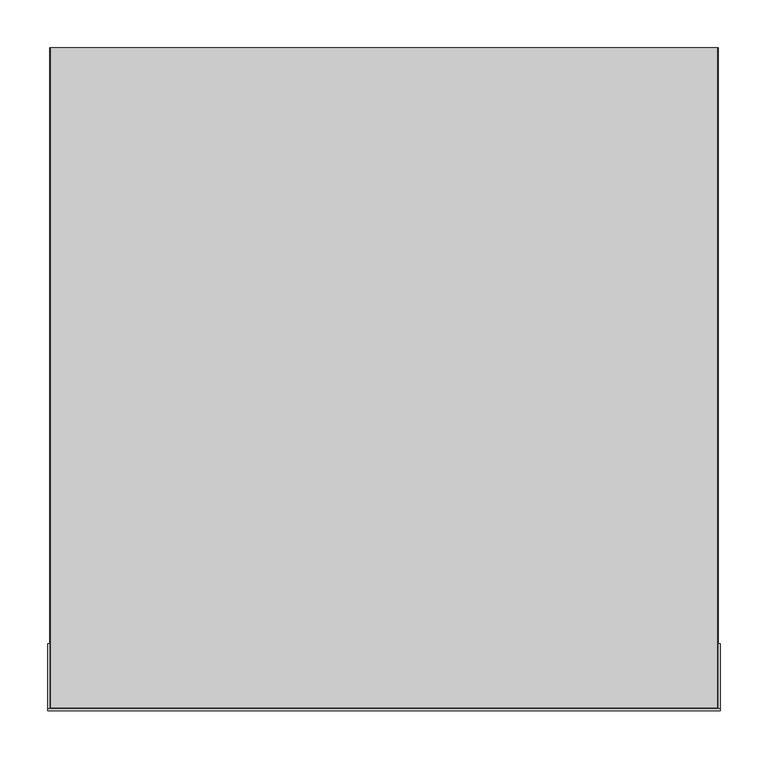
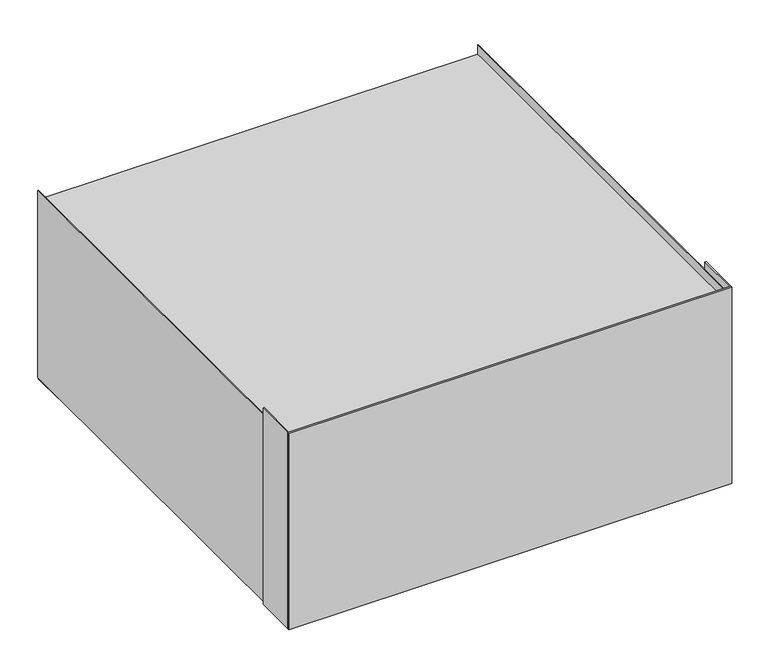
"""IFC4 building model written with IfcOpenShell, lengths in millimetres: proxy geometry, 11792160_EU_APCL054_SST : 59590054_EU_11792160_APCL054_SST."""

from ifc_helpers import new_model, si_unit, point, frame, frame_2d, origin, origin_with_axes, place, context, project, spatial, polyline, circle_curve, trimmed, segment, composite_curve, outline, extrude, faceted_brep, source, transform, mapped, element, save


def specialty_equipment_45dbf545(model_context):
    return source(origin(), model_context, "Body", "SolidModel", [
        extrude(outline(polyline([(-345.65, -54.9545854), (-345.65, -2.0), (-293.150057, -2.0), (-293.150057, -54.9545854), (-345.65, -54.9545854)]), holes=[composite_curve([segment(trimmed(circle_curve(frame_2d((-316.8980495, -29.501979)), 7.0), [point((-323.8980495, -29.501979))], [point((-309.8980495, -29.501979))], True, "CARTESIAN"), True, "CONTINUOUS"), segment(trimmed(circle_curve(frame_2d((-316.8980495, -29.501979)), 7.0), [point((-309.8980495, -29.501979))], [point((-323.8980495, -29.501979))], True, "CARTESIAN"), True, "CONTINUOUS")], self_intersect=False)]), origin_with_axes(), (0.0, 0.0, 1.0), 3.0000568),
        extrude(outline(polyline([(345.65, -633.2454146), (345.65, -686.2), (291.65, -686.2), (291.65, -633.2454146), (345.65, -633.2454146)]), holes=[composite_curve([segment(trimmed(circle_curve(frame_2d((317.0263561, -659.5584791)), 7.0), [point((324.0263561, -659.5584791))], [point((310.0263561, -659.5584791))], True, "CARTESIAN"), True, "CONTINUOUS"), segment(trimmed(circle_curve(frame_2d((317.0263561, -659.5584791)), 7.0), [point((310.0263561, -659.5584791))], [point((324.0263561, -659.5584791))], True, "CARTESIAN"), True, "CONTINUOUS")], self_intersect=False)]), origin_with_axes(), (0.0, 0.0, 1.0), 3.0000568),
        extrude(outline(polyline([(-345.65, -633.2454146), (-291.65, -633.2454146), (-291.65, -686.2), (-345.65, -686.2), (-345.65, -633.2454146)]), holes=[composite_curve([segment(trimmed(circle_curve(frame_2d((-317.0263561, -659.5584791)), 7.0), [point((-324.0263561, -659.5584791))], [point((-310.0263561, -659.5584791))], True, "CARTESIAN"), True, "CONTINUOUS"), segment(trimmed(circle_curve(frame_2d((-317.0263561, -659.5584791)), 7.0), [point((-310.0263561, -659.5584791))], [point((-324.0263561, -659.5584791))], True, "CARTESIAN"), True, "CONTINUOUS")], self_intersect=False)]), origin_with_axes(), (0.0, 0.0, 1.0), 3.0000568),
        faceted_brep([(-347.9787048, -560.2000122, 255.0000529), (-347.9787048, -688.2, 255.0000529), (-217.5212799, -688.2, 255.0000529), (-217.5212799, -686.2, 255.0000529), (-345.9787048, -686.2, 255.0000529), (-345.9787048, -560.2000122, 255.0000529), (-345.9787048, -686.2, 0.0), (-291.5212646, -686.2, 0.0), (-291.5212646, -688.2, 0.0), (-347.9787048, -688.2, 0.0), (-347.9787048, -634.012736, 0.0), (-345.9787048, -634.012736, 0.0), (-347.9787048, -634.012736, 6.0002128), (-291.5212646, -688.2, 5.360683), (-291.5212646, -686.2, 5.360683), (-345.9787048, -634.012736, 6.0002128)], [[[0, 1, 2, 3, 4, 5]], [[6, 7, 8, 9, 10, 11]], [[1, 0, 12, 10, 9]], [[2, 1, 9, 8, 13]], [[4, 3, 14, 7, 6]], [[5, 4, 6, 11, 15]], [[14, 13, 8, 7]], [[13, 14, 3, 2]], [[15, 12, 0, 5]], [[12, 15, 11, 10]]]),
        faceted_brep([(345.9787048, -560.2000122, 255.0000529), (345.9787048, -686.2, 255.0000529), (217.5212799, -686.2, 255.0000529), (217.5212799, -688.2, 255.0000529), (347.9787048, -688.2, 255.0000529), (347.9787048, -560.2000122, 255.0000529), (347.9787048, -688.2, 0.0), (291.4787048, -688.2, 0.0), (291.4787048, -686.2, 0.0), (345.9787048, -686.2, 0.0), (345.9787048, -634.012736, 0.0), (347.9787048, -634.012736, 0.0), (347.9787048, -634.012736, 6.0002128), (291.4787048, -688.2, 4.5000568), (291.4787048, -686.2, 4.5000568), (345.9787048, -634.012736, 6.0002128)], [[[0, 1, 2, 3, 4, 5]], [[6, 7, 8, 9, 10, 11]], [[5, 4, 6, 11, 12]], [[4, 3, 13, 7, 6]], [[2, 1, 9, 8, 14]], [[1, 0, 15, 10, 9]], [[13, 14, 8, 7]], [[14, 13, 3, 2]], [[12, 15, 0, 5]], [[15, 12, 11, 10]]]),
        extrude(outline(polyline([(-347.9787048, -688.2), (-347.9787048, 0.0), (347.9787048, 0.0), (347.9787048, -688.2), (-347.9787048, -688.2)])), frame((0.0, 0.0, 255.0000529), z_axis=(0.0, 0.0, 1.0), x_axis=(1.0, 0.0, 0.0)), (0.0, 0.0, 1.0), 44.9999986),
        extrude(outline(polyline([(350.65, -689.7), (350.65, -691.7), (-350.65, -691.7), (-350.65, -689.7), (350.65, -689.7)])), origin_with_axes(), (0.0, 0.0, 1.0), 329.0),
        faceted_brep([(347.9787048, -127.9999878, 255.0000529), (347.9787048, 0.0, 255.0000529), (217.5212799, 0.0, 255.0000529), (217.5212799, -2.0, 255.0000529), (345.9787048, -2.0, 255.0000529), (345.9787048, -127.9999878, 255.0000529), (345.9787048, -2.0, 0.0), (291.4787048, -2.0, 0.0), (291.4787048, 0.0, 0.0), (347.9787048, 0.0, 0.0), (347.9787048, -54.9545854, 0.0), (345.9787048, -54.9545854, 0.0), (347.9787048, -127.9999878, 251.1747163), (347.9787048, -54.9545854, 3.7638167), (291.4787048, 0.0, 4.5000568), (291.4787048, -2.0, 4.5000568), (345.9787048, -54.9545854, 3.7638167), (345.9787048, -127.9999878, 251.1747163)], [[[0, 1, 2, 3, 4, 5]], [[6, 7, 8, 9, 10, 11]], [[1, 0, 12, 13, 10, 9]], [[1, 9, 8, 14, 2]], [[6, 4, 3, 15, 7]], [[5, 4, 6, 11, 16, 17]], [[0, 5, 17, 12]], [[15, 14, 8, 7]], [[14, 15, 3, 2]], [[13, 16, 11, 10]], [[16, 13, 12, 17]]]),
        faceted_brep([(-347.9787048, -127.9999878, 255.0000529), (-345.9787048, -127.9999878, 255.0000529), (-345.9787048, -2.0, 255.0000529), (-217.5212799, -2.0, 255.0000529), (-217.5212799, 0.0, 255.0000529), (-347.9787048, 0.0, 255.0000529), (-347.9787048, 0.0, 0.0), (-291.5212646, 0.0, 0.0), (-291.5212646, -2.0, 0.0), (-345.9787048, -2.0, 0.0), (-345.9787048, -54.9545854, 0.0), (-347.9787048, -54.9545854, 0.0), (-347.9787048, -54.9545854, 3.7638167), (-347.9787048, -127.9999878, 251.1747163), (-291.5212646, 0.0, 5.360683), (-291.5212646, -2.0, 5.360683), (-345.9787048, -127.9999878, 251.1747163), (-345.9787048, -54.9545854, 3.7638167)], [[[0, 1, 2, 3, 4, 5]], [[6, 7, 8, 9, 10, 11]], [[0, 5, 6, 11, 12, 13]], [[6, 5, 4, 14, 7]], [[2, 9, 8, 15, 3]], [[2, 1, 16, 17, 10, 9]], [[1, 0, 13, 16]], [[14, 15, 8, 7]], [[15, 14, 4, 3]], [[17, 12, 11, 10]], [[12, 17, 16, 13]]]),
        extrude(outline(polyline([(348.9787048, -689.7), (348.9787048, -621.7872741), (350.65, -621.7872741), (350.65, -689.7), (348.9787048, -689.7)])), origin_with_axes(), (0.0, 0.0, 1.0), 329.0),
        extrude(outline(polyline([(-348.9787048, -621.7872741), (-348.9787048, -689.7), (-350.65, -689.7), (-350.65, -621.7872741), (-348.9787048, -621.7872741)])), origin_with_axes(), (0.0, 0.0, 1.0), 329.0),
        extrude(outline(polyline([(348.9787048, -689.7), (347.9787048, -689.7), (347.9787048, 0.0), (348.9787048, 0.0), (348.9787048, -689.7)])), frame((0.0, 0.0, 3.0000568), z_axis=(0.0, 0.0, 1.0), x_axis=(1.0, 0.0, 0.0)), (0.0, 0.0, 1.0), 312.9999432),
        extrude(outline(polyline([(0.0, -1.0), (0.0, 0.0), (689.7, 0.0), (689.7, -1.0), (0.0, -1.0)])), frame((-348.9787048, -689.7, 3.0000568), z_axis=(-2.2841728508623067e-12, 0.0, 1.0), x_axis=(0.0, 1.0, 0.0)), (0.0, 0.0, 1.0), 312.9999432),
        extrude(outline(polyline([(-320.4297166, -34.501979), (-320.4297166, -24.456348), (-316.5963863, -24.456348), (-314.7189618, -24.7518799), (-313.6104107, -25.6605484), (-313.2094194, -26.9456828), (-313.5466445, -28.1192264), (-314.5656776, -29.0082745), (-313.3283679, -29.9451473), (-312.8954934, -31.5074196), (-313.1910253, -32.8575465), (-313.9231104, -33.8189448), (-315.01572, -34.3290745), (-316.6258168, -34.501979), (-320.4297166, -34.501979)]), holes=[polyline([(-319.1740128, -28.5373856), (-316.8808817, -28.5373856), (-315.5417912, -28.4294735), (-314.7361296, -27.9647159), (-314.4651232, -27.1467916), (-314.7177355, -26.3276411), (-315.4412368, -25.8432631), (-317.0550125, -25.7120519), (-319.1740128, -25.7120519), (-319.1740128, -28.5373856)]), polyline([(-319.1740128, -33.2462751), (-316.5988388, -33.2462751), (-315.6668711, -33.1972242), (-314.8783773, -32.9237652), (-314.1511973, -31.5196823), (-314.3915468, -30.5435687), (-315.1702304, -29.9610889), (-316.7214661, -29.7930895), (-319.1740128, -29.7930895), (-319.1740128, -33.2462751)])]), origin_with_axes(), (0.0, 0.0, 1.0), 1.0),
        extrude(outline(polyline([(313.7245194, -664.5553509), (313.7245194, -654.5097198), (317.5578498, -654.5097198), (319.4352742, -654.8052517), (320.5438253, -655.7139202), (320.9448167, -656.9990547), (320.6075915, -658.1725982), (319.5885584, -659.0616464), (320.8258682, -659.9985192), (321.2587427, -661.5607914), (320.9632108, -662.9109183), (320.2311256, -663.8723166), (319.1385161, -664.3824463), (317.5284192, -664.5553509), (313.7245194, -664.5553509)]), holes=[polyline([(314.9802233, -658.5907574), (317.2733544, -658.5907574), (318.6124448, -658.4828454), (319.4181064, -658.0180878), (319.6891128, -657.2001635), (319.4365005, -656.3810129), (318.7129993, -655.896635), (317.0992236, -655.7654237), (314.9802233, -655.7654237), (314.9802233, -658.5907574)]), polyline([(314.9802233, -663.299647), (317.5553972, -663.299647), (318.487365, -663.250596), (319.2758587, -662.9771371), (320.0030388, -661.5730541), (319.7626892, -660.5969406), (318.9840057, -660.0144608), (317.4327699, -659.8464613), (314.9802233, -659.8464613), (314.9802233, -663.299647)])]), frame((0.0, 0.0, -1.0), z_axis=(0.0, 0.0, 1.0), x_axis=(1.0, 0.0, 0.0)), (0.0, 0.0, 1.0), 1.0),
        extrude(outline(polyline([(313.3663823, -34.501979), (313.3663823, -24.456348), (317.1997127, -24.456348), (319.0771372, -24.7518799), (320.1856883, -25.6605484), (320.5866796, -26.9456828), (320.2494545, -28.1192264), (319.2304213, -29.0082745), (320.4677311, -29.9451473), (320.9006056, -31.5074196), (320.6050737, -32.8575465), (319.8729886, -33.8189448), (318.780379, -34.3290745), (317.1702822, -34.501979), (313.3663823, -34.501979)]), holes=[polyline([(314.6220862, -28.5373856), (316.9152173, -28.5373856), (318.2543078, -28.4294735), (319.0599694, -27.9647159), (319.3309758, -27.1467916), (319.0783635, -26.3276411), (318.3548622, -25.8432631), (316.7410865, -25.7120519), (314.6220862, -25.7120519), (314.6220862, -28.5373856)]), polyline([(314.6220862, -33.2462751), (317.1972602, -33.2462751), (318.1292279, -33.1972242), (318.9177216, -32.9237652), (319.6449017, -31.5196823), (319.4045522, -30.5435687), (318.6258686, -29.9610889), (317.0746329, -29.7930895), (314.6220862, -29.7930895), (314.6220862, -33.2462751)])]), frame((0.0, 0.0, -1.0), z_axis=(0.0, 0.0, 1.0), x_axis=(1.0, 0.0, 0.0)), (0.0, 0.0, 1.0), 1.0),
        extrude(outline(polyline([(-319.9744593, -665.0420165), (-319.9744593, -654.9963855), (-316.1411289, -654.9963855), (-314.2637045, -655.2919174), (-313.1551534, -656.2005859), (-312.754162, -657.4857203), (-313.0913872, -658.6592639), (-314.1104203, -659.5483121), (-312.8731105, -660.4851849), (-312.440236, -662.0474571), (-312.7357679, -663.397584), (-313.4678531, -664.3589823), (-314.5604626, -664.869112), (-316.1705595, -665.0420165), (-319.9744593, -665.0420165)]), holes=[polyline([(-318.7187554, -659.0774231), (-316.4256243, -659.0774231), (-315.0865339, -658.9695111), (-314.2808723, -658.5047535), (-314.0098659, -657.6868292), (-314.2624782, -656.8676786), (-314.9859794, -656.3833006), (-316.5997551, -656.2520894), (-318.7187554, -656.2520894), (-318.7187554, -659.0774231)]), polyline([(-318.7187554, -663.7863127), (-316.1435815, -663.7863127), (-315.2116137, -663.7372617), (-314.42312, -663.4638028), (-313.6959399, -662.0597198), (-313.9362895, -661.0836063), (-314.714973, -660.5011264), (-316.2662088, -660.333127), (-318.7187554, -660.333127), (-318.7187554, -663.7863127)])]), frame((0.0, 0.0, -1.0), z_axis=(0.0, 0.0, 1.0), x_axis=(1.0, 0.0, 0.0)), (0.0, 0.0, 1.0), 1.0),
        extrude(outline(polyline([(345.65, -54.9545854), (293.150057, -54.9545854), (293.150057, -2.0), (345.65, -2.0), (345.65, -54.9545854)]), holes=[composite_curve([segment(trimmed(circle_curve(frame_2d((316.8980495, -29.501979)), 7.0), [point((323.8980495, -29.501979))], [point((309.8980495, -29.501979))], True, "CARTESIAN"), True, "CONTINUOUS"), segment(trimmed(circle_curve(frame_2d((316.8980495, -29.501979)), 7.0), [point((309.8980495, -29.501979))], [point((323.8980495, -29.501979))], True, "CARTESIAN"), True, "CONTINUOUS")], self_intersect=False)]), origin_with_axes(), (0.0, 0.0, 1.0), 3.0000568),
    ])


if __name__ == "__main__":
    model = new_model("IFC4")
    model_context = context("Model", 3, world=origin())
    ifc_project = project(units=[si_unit("LENGTHUNIT", "METRE", prefix="MILLI")], contexts=[model_context])
    site = spatial("IfcSite", under=ifc_project)
    building = spatial("IfcBuilding", under=site)
    placement = place(None, origin())
    specialty_equipment_shape = specialty_equipment_45dbf545(model_context)
    element("IfcBuildingElementProxy", 1, Name="11792160_EU_APCL054_SST : 59590054_EU_11792160_APCL054_SST", ObjectType="11792160_EU_APCL054_SST : 59590054_EU_11792160_APCL054_SST", at=placement, inside=building, context=model_context, shape_type="MappedRepresentation", body=[
        mapped(specialty_equipment_shape, transform((0.0, 0.0, 0.0), x_axis=(1.0, 0.0, 0.0), y_axis=(0.0, 1.0, 0.0), z_axis=(0.0, 0.0, 1.0))),
    ])
    save(model, "model.ifc")
